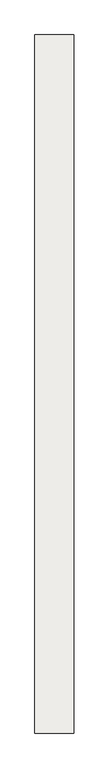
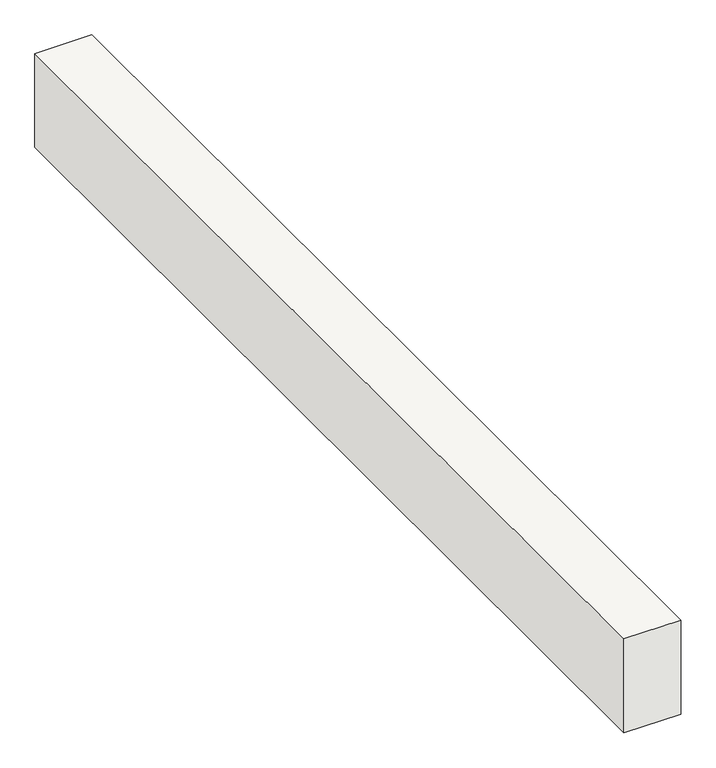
"""IFC4 building model written with IfcOpenShell, lengths in millimetres: slab geometry, Longrine Amont : Longrine Amont."""

from ifc_helpers import new_model, si_unit, frame, origin, place, context, project, spatial, polyline, outline, extrude, source, transform, mapped, element, save


def slab_a3fdfd9a(model_context):
    return source(origin(), model_context, "Body", "SweptSolid", [
        extrude(outline(polyline([(157108.0, -18700.0), (156758.0, -18700.0), (156756.4547849, -18500.0), (157108.0, -18500.0), (157108.0, -18700.0)])), frame((0.0, -1800.0, 0.0), z_axis=(0.0, 1.0, 0.0), x_axis=(0.0, 0.0, 1.0)), (0.0, 0.0, 1.0), 3600.0),
    ])


if __name__ == "__main__":
    model = new_model("IFC4")
    model_context = context("Model", 3, world=origin())
    ifc_project = project(units=[si_unit("LENGTHUNIT", "METRE", prefix="MILLI")], contexts=[model_context])
    site = spatial("IfcSite", under=ifc_project)
    building = spatial("IfcBuilding", under=site)
    placement = place(None, origin())
    slab_shape = slab_a3fdfd9a(model_context)
    element("IfcSlab", 1, ObjectType="Longrine Amont : Longrine Amont", at=placement, inside=building, context=model_context, shape_type="MappedRepresentation", body=[
        mapped(slab_shape, transform((0.0, 0.0, 0.0), x_axis=(1.0, 0.0, 0.0), y_axis=(0.0, 1.0, 0.0), z_axis=(0.0, 0.0, 1.0))),
    ])
    save(model, "model.ifc")
